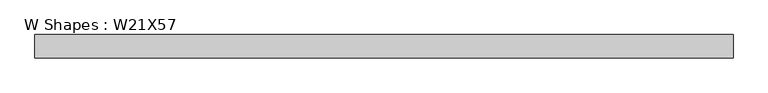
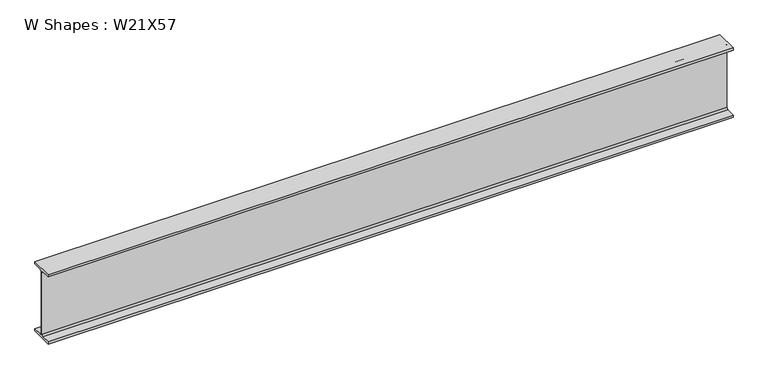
"""IFC4 building model written with IfcOpenShell, lengths in millimetres: beam geometry, W Shapes : W21X57."""

import ifcopenshell
import ifcopenshell.guid

model = None  # the IFC model being written
_history = None  # IfcOwnerHistory: only IFC2X3 demands one
_inside = {}  # id of a spatial element -> (the spatial element, [elements in it])
_under = {}  # id of a project, library or spatial element -> (it, [spatial elements below it])
_declared = {}  # id of a project -> (the project, [libraries it declares])
_typed = {}  # id of a type object -> (the type object, [elements of that type])
_made_of = {}  # id of a material, layer set ... -> (it, [elements and type objects made of it])


def new_model(schema):
    """Start an empty IFC model of exactly this schema.

    Asked for "IFC4X3", IfcOpenShell would pick the latest addendum, in which some entities
    have other attributes; the version numbers below select the first issue.
    IFC2X3 requires an IfcOwnerHistory on every rooted entity: one is made here for all.
    """
    global model, _history
    if schema == "IFC4X3":
        model = ifcopenshell.file(schema_version=(4, 3, 0, 0))
    else:
        model = ifcopenshell.file(schema=schema)
    _inside.clear()
    _under.clear()
    _declared.clear()
    _typed.clear()
    _made_of.clear()
    _history = None
    if model.schema == "IFC2X3":
        org = make("IfcOrganization", Name="unknown")
        user = make(
            "IfcPersonAndOrganization",
            ThePerson=make("IfcPerson", FamilyName="unknown"),
            TheOrganization=org,
        )
        app = make(
            "IfcApplication",
            ApplicationDeveloper=org,
            Version="unknown",
            ApplicationFullName="unknown",
            ApplicationIdentifier="unknown",
        )
        _history = make(
            "IfcOwnerHistory",
            OwningUser=user,
            OwningApplication=app,
            ChangeAction="ADDED",
            CreationDate=0,
        )
    return model


def make(cls, **values):
    """One entity of the class cls with the attributes given. An attribute that is None is left unset."""
    return model.create_entity(
        cls, **{name: value for name, value in values.items() if value is not None}
    )


def rooted(cls, **values):
    """An entity with a GlobalId (a new one), such as an element, a storey or a relation."""
    return make(cls, GlobalId=ifcopenshell.guid.new(), OwnerHistory=_history, **values)


def si_unit(unit_type, name, prefix=None):
    """IfcSIUnit, for example si_unit("LENGTHUNIT", "METRE", prefix="MILLI")."""
    return make("IfcSIUnit", UnitType=unit_type, Prefix=prefix, Name=name)


def assignment(units):
    """IfcUnitAssignment: the units of a project."""
    return None if units is None else make("IfcUnitAssignment", Units=units)


def point(xyz):
    """IfcCartesianPoint."""
    return None if xyz is None else make("IfcCartesianPoint", Coordinates=xyz)


def direction(xyz):
    """IfcDirection."""
    return None if xyz is None else make("IfcDirection", DirectionRatios=xyz)


def frame(location, z_axis=None, x_axis=None):
    """IfcAxis2Placement3D, a coordinate frame: its origin and axes. An axis left out is left unset."""
    return make(
        "IfcAxis2Placement3D",
        Location=point(location),
        Axis=direction(z_axis),
        RefDirection=direction(x_axis),
    )


def frame_2d(location, x_axis=None):
    """IfcAxis2Placement2D, a coordinate frame in the plane: its origin and x axis."""
    return make(
        "IfcAxis2Placement2D", Location=point(location), RefDirection=direction(x_axis)
    )


def origin():
    """The frame at (0, 0, 0) with its axes left unset."""
    return frame((0.0, 0.0, 0.0))


def place(relative_to, where):
    """IfcLocalPlacement: puts the frame where relative to a parent placement (None: the world)."""
    return make(
        "IfcLocalPlacement", PlacementRelTo=relative_to, RelativePlacement=where
    )


def context(
    kind, dimensions, precision=None, world=None, true_north=None, identifier=None
):
    """IfcGeometricRepresentationContext, for example the 3D "Model" context."""
    return make(
        "IfcGeometricRepresentationContext",
        ContextIdentifier=identifier,
        ContextType=kind,
        CoordinateSpaceDimension=dimensions,
        Precision=precision,
        WorldCoordinateSystem=world,
        TrueNorth=true_north,
    )


def project(units=None, contexts=None):
    """IfcProject with its units and contexts."""
    return rooted(
        "IfcProject",
        Name="project",
        RepresentationContexts=contexts,
        UnitsInContext=assignment(units),
    )


def spatial(cls, under=None, at=None, **own):
    """A site, building, storey or space (cls), placed at a placement, below another one or the project."""
    s = rooted(cls, ObjectPlacement=at, **own)
    if under is not None:
        _under.setdefault(under.id(), (under, []))[1].append(s)
    return s


def polyline(points):
    """IfcPolyline through the points."""
    return make("IfcPolyline", Points=[point(p) for p in points])


def circle_curve(where, radius):
    """IfcCircle in the frame where."""
    return make("IfcCircle", Position=where, Radius=radius)


def trimmed(basis, trim1, trim2, sense, master):
    """IfcTrimmedCurve: the piece of a basis curve between two trims."""
    return make(
        "IfcTrimmedCurve",
        BasisCurve=basis,
        Trim1=trim1,
        Trim2=trim2,
        SenseAgreement=sense,
        MasterRepresentation=master,
    )


def segment(curve, same_sense, transition):
    """IfcCompositeCurveSegment."""
    return make(
        "IfcCompositeCurveSegment",
        Transition=transition,
        SameSense=same_sense,
        ParentCurve=curve,
    )


def composite_curve(segments, self_intersect=None):
    """IfcCompositeCurve: segments joined end to end."""
    return make("IfcCompositeCurve", Segments=segments, SelfIntersect=self_intersect)


def outline(outer, holes=None, kind="AREA"):
    """IfcArbitraryClosedProfileDef: a profile drawn as a closed curve; with holes, ...WithVoids."""
    if holes is None:
        return make("IfcArbitraryClosedProfileDef", ProfileType=kind, OuterCurve=outer)
    return make(
        "IfcArbitraryProfileDefWithVoids",
        ProfileType=kind,
        OuterCurve=outer,
        InnerCurves=holes,
    )


def extrude(swept, where, along, depth):
    """IfcExtrudedAreaSolid: the profile swept, set in the frame where, extruded along a direction by depth."""
    return make(
        "IfcExtrudedAreaSolid",
        SweptArea=swept,
        Position=where,
        ExtrudedDirection=direction(along),
        Depth=depth,
    )


def shape(context_of_items, identifier, shape_type, items):
    """IfcShapeRepresentation: the items that make up one representation, for example the "Body"."""
    return make(
        "IfcShapeRepresentation",
        ContextOfItems=context_of_items,
        RepresentationIdentifier=identifier,
        RepresentationType=shape_type,
        Items=items,
    )


def source(mapping_origin, context_of_items, identifier, shape_type, items):
    """IfcRepresentationMap: a shape defined once, which mapped items show again and again."""
    return make(
        "IfcRepresentationMap",
        MappingOrigin=mapping_origin,
        MappedRepresentation=shape(context_of_items, identifier, shape_type, items),
    )


def transform(
    local_origin,
    x_axis=None,
    y_axis=None,
    z_axis=None,
    scale=None,
    scale2=None,
    scale3=None,
    uniform=True,
):
    """IfcCartesianTransformationOperator3D, or its non-uniform kind. x_axis, y_axis, z_axis: its Axis1, 2, 3."""
    if uniform:
        return make(
            "IfcCartesianTransformationOperator3D",
            Axis1=direction(x_axis),
            Axis2=direction(y_axis),
            LocalOrigin=point(local_origin),
            Scale=scale,
            Axis3=direction(z_axis),
        )
    return make(
        "IfcCartesianTransformationOperator3DnonUniform",
        Axis1=direction(x_axis),
        Axis2=direction(y_axis),
        LocalOrigin=point(local_origin),
        Scale=scale,
        Axis3=direction(z_axis),
        Scale2=scale2,
        Scale3=scale3,
    )


def mapped(mapping_source, mapping_target):
    """IfcMappedItem: shows the shape of a source again, moved by a transform."""
    return make(
        "IfcMappedItem", MappingSource=mapping_source, MappingTarget=mapping_target
    )


def made_of(thing, what):
    """Note that an element or type object is made of a material, layer set ...; save() writes the relation."""
    if what is not None:
        _made_of.setdefault(what.id(), (what, []))[1].append(thing)
    return thing


def element(
    cls,
    number,
    at=None,
    inside=None,
    cuts=None,
    type_object=None,
    material=None,
    context=None,
    identifier="Body",
    shape_type=None,
    held_by="IfcProductDefinitionShape",
    body=None,
    shapes=None,
    **own,
):
    """One element of the class cls, such as IfcWall. Its Tag is "e" and its number.

    at: its placement. inside: the storey or other place that contains it. cuts: it is an
    opening in that element (IfcRelVoidsElement). A single representation is given by context,
    identifier, shape_type and body (its items); several are given by shapes. held_by: the class
    of the entity that holds the representations. save() writes the other relations.
    """
    e = rooted(cls, Tag="e%d" % number, ObjectPlacement=at, **own)
    if body is not None:
        shapes = [shape(context, identifier, shape_type, body)]
    if shapes is not None:
        e.Representation = make(held_by, Representations=shapes)
    if inside is not None:
        _inside.setdefault(inside.id(), (inside, []))[1].append(e)
    if cuts is not None:
        rooted(
            "IfcRelVoidsElement", RelatingBuildingElement=cuts, RelatedOpeningElement=e
        )
    if type_object is not None:
        _typed.setdefault(type_object.id(), (type_object, []))[1].append(e)
    return made_of(e, material)


def aggregate(whole, parts):
    """IfcRelAggregates: a whole, such as a stair, and the parts it consists of."""
    return rooted("IfcRelAggregates", RelatingObject=whole, RelatedObjects=parts)


def save(model, path):
    """Write the relations noted so far, then the file.

    IfcRelAggregates (storeys below a building ...), IfcRelContainedInSpatialStructure (elements
    in a storey), IfcRelDefinesByType, IfcRelAssociatesMaterial and IfcRelDeclares: one each for
    every whole, place, type object, material and project.
    """
    for whole, parts in _under.values():
        aggregate(whole, parts)
    for where, things in _inside.values():
        rooted(
            "IfcRelContainedInSpatialStructure",
            RelatedElements=things,
            RelatingStructure=where,
        )
    for kind, things in _typed.values():
        rooted("IfcRelDefinesByType", RelatedObjects=things, RelatingType=kind)
    for what, things in _made_of.values():
        rooted("IfcRelAssociatesMaterial", RelatedObjects=things, RelatingMaterial=what)
    for by, libraries in _declared.values():
        rooted("IfcRelDeclares", RelatingContext=by, RelatedDefinitions=libraries)
    model.write(path)


def w_shapes_w21x57_cef2d52b(model_context):
    return source(origin(), model_context, "Body", "SweptSolid", [
        extrude(outline(composite_curve([segment(polyline([(83.312, -251.46), (83.312, -267.97), (-83.312, -267.97), (-83.312, -251.46), (-17.907, -251.46)]), True, "CONTINUOUS"), segment(trimmed(circle_curve(frame_2d((-17.907, -238.76)), 12.7), [point((-17.907, -251.46))], [point((-5.207, -238.76))], True, "CARTESIAN"), True, "CONTINUOUS"), segment(polyline([(-5.207, -238.76), (-5.207, 238.76)]), True, "CONTINUOUS"), segment(trimmed(circle_curve(frame_2d((-17.907, 238.76)), 12.7), [point((-5.207, 238.76))], [point((-17.907, 251.46))], True, "CARTESIAN"), True, "CONTINUOUS"), segment(polyline([(-17.907, 251.46), (-83.312, 251.46), (-83.312, 267.97), (83.312, 267.97), (83.312, 251.46), (17.907, 251.46)]), True, "CONTINUOUS"), segment(trimmed(circle_curve(frame_2d((17.907, 238.76)), 12.7), [point((17.907, 251.46))], [point((5.207, 238.76))], True, "CARTESIAN"), True, "CONTINUOUS"), segment(polyline([(5.207, 238.76), (5.207, -238.76)]), True, "CONTINUOUS"), segment(trimmed(circle_curve(frame_2d((17.907, -238.76)), 12.7), [point((5.207, -238.76))], [point((17.907, -251.46))], True, "CARTESIAN"), True, "CONTINUOUS"), segment(polyline([(17.907, -251.46), (83.312, -251.46)]), True, "CONTINUOUS")], self_intersect=False)), frame((-2471.9536354, 0.0, 0.0), z_axis=(1.0, 0.0, 0.0), x_axis=(0.0, 1.0, 0.0)), (0.0, 0.0, 1.0), 5018.7533294),
    ])


if __name__ == "__main__":
    model = new_model("IFC4")
    model_context = context("Model", 3, world=origin())
    ifc_project = project(units=[si_unit("LENGTHUNIT", "METRE", prefix="MILLI")], contexts=[model_context])
    site = spatial("IfcSite", under=ifc_project)
    building = spatial("IfcBuilding", under=site)
    placement = place(None, origin())
    w_shapes_w21x57_shape = w_shapes_w21x57_cef2d52b(model_context)
    element("IfcBeam", 1, ObjectType="W Shapes : W21X57", at=placement, inside=building, context=model_context, shape_type="MappedRepresentation", body=[
        mapped(w_shapes_w21x57_shape, transform((0.0, 0.0, 0.0), x_axis=(1.0, 0.0, 0.0), y_axis=(0.0, 1.0, 0.0), z_axis=(0.0, 0.0, 1.0))),
    ])
    save(model, "model.ifc")
